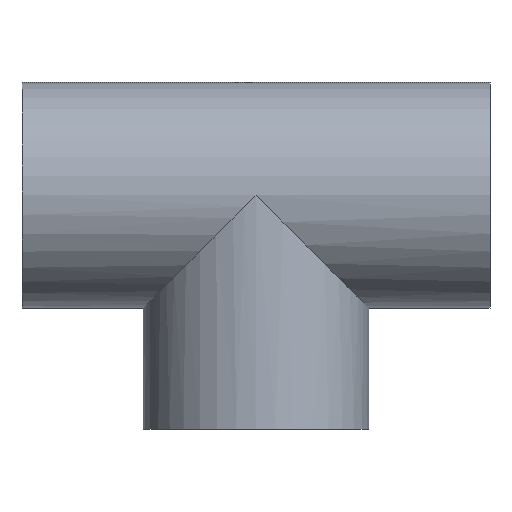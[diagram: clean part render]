
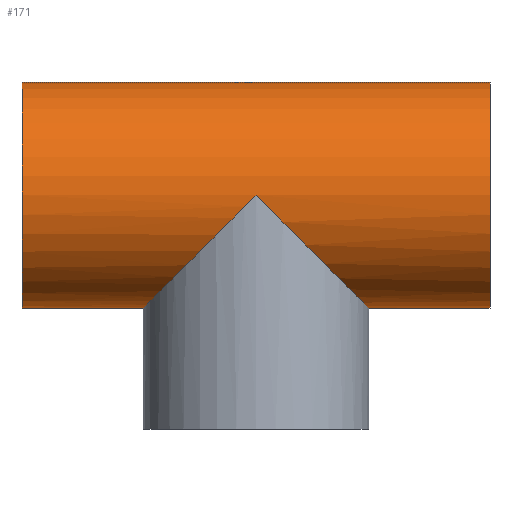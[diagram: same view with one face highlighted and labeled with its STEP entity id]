
A CAD part, top view. The second image highlights one B-rep face of the part: STEP entity #171.
In plain terms, the highlighted cylindrical face has radius 13.5 mm (diameter 27 mm), a full revolution.
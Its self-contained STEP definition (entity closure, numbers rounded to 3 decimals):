
#17=ELLIPSE('',#199,19.092,13.5);
#18=ELLIPSE('',#200,19.092,13.5);
#32=FACE_BOUND('',#68,.T.);
#33=FACE_BOUND('',#69,.T.);
#47=FACE_OUTER_BOUND('',#67,.T.);
#67=EDGE_LOOP('',(#140));
#68=EDGE_LOOP('',(#141,#142));
#69=EDGE_LOOP('',(#143));
#90=CIRCLE('',#198,13.5);
#91=CIRCLE('',#201,13.5);
#104=VERTEX_POINT('',#299);
#105=VERTEX_POINT('',#301);
#106=VERTEX_POINT('',#302);
#107=VERTEX_POINT('',#305);
#120=EDGE_CURVE('',#104,#104,#90,.T.);
#121=EDGE_CURVE('',#105,#106,#17,.T.);
#122=EDGE_CURVE('',#106,#105,#18,.T.);
#123=EDGE_CURVE('',#107,#107,#91,.T.);
#140=ORIENTED_EDGE('',*,*,#120,.F.);
#141=ORIENTED_EDGE('',*,*,#121,.T.);
#142=ORIENTED_EDGE('',*,*,#122,.T.);
#143=ORIENTED_EDGE('',*,*,#123,.F.);
#161=CYLINDRICAL_SURFACE('',#197,13.5);
#171=ADVANCED_FACE('',(#47,#32,#33),#161,.T.);
#197=AXIS2_PLACEMENT_3D('',#298,#246,#247);
#198=AXIS2_PLACEMENT_3D('',#300,#248,#249);
#199=AXIS2_PLACEMENT_3D('',#303,#250,#251);
#200=AXIS2_PLACEMENT_3D('',#304,#252,#253);
#201=AXIS2_PLACEMENT_3D('',#306,#254,#255);
#246=DIRECTION('center_axis',(1.,0.,0.));
#247=DIRECTION('ref_axis',(0.,-1.,0.));
#248=DIRECTION('center_axis',(-1.,0.,0.));
#249=DIRECTION('ref_axis',(0.,-1.,0.));
#250=DIRECTION('center_axis',(-0.707,0.707,0.));
#251=DIRECTION('ref_axis',(-0.707,-0.707,0.));
#252=DIRECTION('center_axis',(0.707,0.707,0.));
#253=DIRECTION('ref_axis',(-0.707,0.707,0.));
#254=DIRECTION('center_axis',(1.,0.,0.));
#255=DIRECTION('ref_axis',(0.,-1.,0.));
#298=CARTESIAN_POINT('Origin',(0.,0.,0.));
#299=CARTESIAN_POINT('',(-28.,13.5,0.));
#300=CARTESIAN_POINT('Origin',(-28.,0.,0.));
#301=CARTESIAN_POINT('',(0.,0.,-13.5));
#302=CARTESIAN_POINT('',(0.,0.,13.5));
#303=CARTESIAN_POINT('Origin',(0.,0.,0.));
#304=CARTESIAN_POINT('Origin',(0.,0.,0.));
#305=CARTESIAN_POINT('',(28.,13.5,0.));
#306=CARTESIAN_POINT('Origin',(28.,0.,0.));
